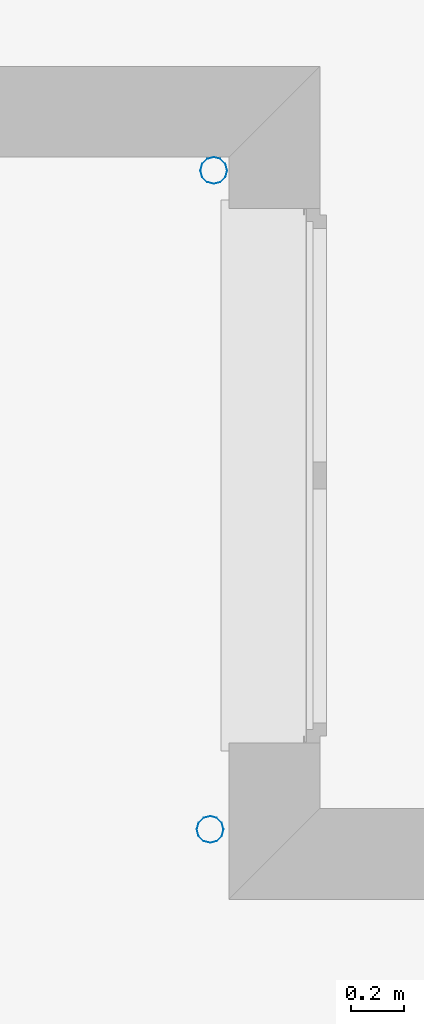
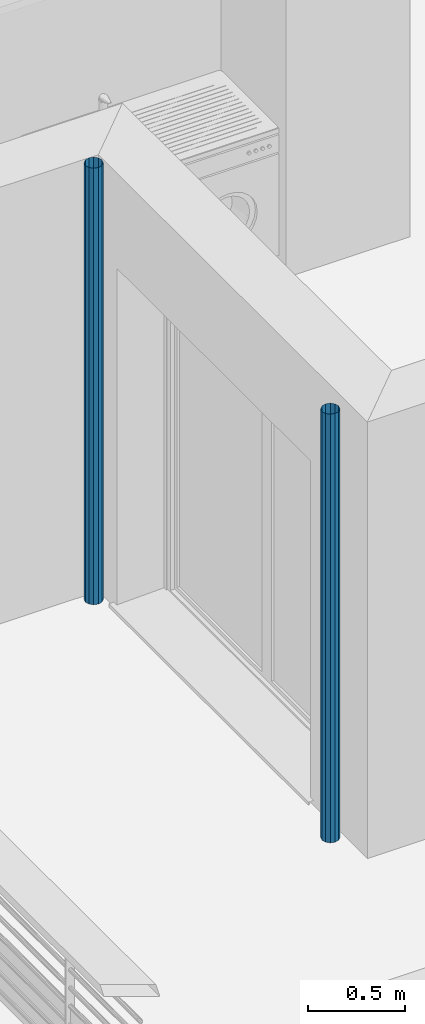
# One storey, part 74 of 164: 2 discrete accessories.
"""IFC2X3 building model written with IfcOpenShell, lengths in millimetres."""

from ifc_helpers import new_model, entity, si_unit, converted_unit, derived_unit, money_unit, direction, frame, origin_with_axes, place, context, subcontext, project, spatial, open_shell, surface_model, source, transform, mapped, type_object, element, save


model = new_model("IFC2X3")

# Units and contexts
model_context = context("Model", 3, precision=0.01, world=origin_with_axes(), true_north=direction((0.0, 1.0)))
body_context = subcontext(model_context, "Body", "Model", "MODEL_VIEW")
ifc_project = project(units=[si_unit("LENGTHUNIT", "METRE", prefix="MILLI"), si_unit("AREAUNIT", "SQUARE_METRE"), si_unit("VOLUMEUNIT", "CUBIC_METRE"), converted_unit("PLANEANGLEUNIT", "DEGREE", entity("IfcPlaneAngleMeasure", 0.0174532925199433), si_unit("PLANEANGLEUNIT", "RADIAN"), dimensions=[0, 0, 0, 0, 0, 0, 0]), money_unit("USD"), converted_unit("TIMEUNIT", "Year", entity("IfcTimeMeasure", 31557600.0), si_unit("TIMEUNIT", "SECOND"), dimensions=[0, 0, 1, 0, 0, 0, 0]), si_unit("MASSUNIT", "GRAM", prefix="KILO"), si_unit("THERMODYNAMICTEMPERATUREUNIT", "DEGREE_CELSIUS"), si_unit("LUMINOUSINTENSITYUNIT", "LUMEN"), si_unit("ENERGYUNIT", "JOULE", prefix="MEGA"), derived_unit("THERMALCONDUCTANCEUNIT", [(si_unit("POWERUNIT", "WATT"), 1), (si_unit("LENGTHUNIT", "METRE"), -1), (si_unit("THERMODYNAMICTEMPERATUREUNIT", "KELVIN"), -1)]), derived_unit("SPECIFICHEATCAPACITYUNIT", [(si_unit("ENERGYUNIT", "JOULE"), 1), (si_unit("MASSUNIT", "GRAM", prefix="KILO"), -1), (si_unit("THERMODYNAMICTEMPERATUREUNIT", "KELVIN"), -1)]), derived_unit("MASSDENSITYUNIT", [(si_unit("MASSUNIT", "GRAM", prefix="KILO"), 1), (si_unit("VOLUMEUNIT", "CUBIC_METRE"), -1)])], contexts=[model_context])

# Site, building, storey
site_placement = place(None, origin_with_axes())
site = spatial("IfcSite", under=ifc_project, at=site_placement, Name="Site", CompositionType="ELEMENT")
building_placement = place(site_placement, origin_with_axes())
building = spatial("IfcBuilding", under=site, at=building_placement, Name="Bâtiment", CompositionType="ELEMENT")
storey_placement = place(building_placement, frame((0.0, 0.0, 5750.0), z_axis=(0.0, 0.0, 1.0), x_axis=(1.0, 0.0, 0.0)))
storey = spatial("IfcBuildingStorey", under=building, at=storey_placement, Name="Etage1", CompositionType="ELEMENT", Elevation=5750.0)

# Discrete accessories
discrete_accessory_type = type_object("IfcDiscreteAccessoryType", Name="Tuyau descente 27")
shared_shape_1 = source(origin_with_axes(), body_context, "Body", "SurfaceModel", [
    surface_model("IfcShellBasedSurfaceModel", [(50.0, 0.0, 2700.0), (43.30127018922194, -25.0, 2700.0), (43.30127018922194, -25.0, 0.0), (50.0, 0.0, 0.0), (25.00000000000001, -43.30127018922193, 2700.0), (25.00000000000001, -43.30127018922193, 0.0), (43.30127018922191, 25.00000000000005, 2700.0), (43.30127018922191, 25.00000000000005, 0.0), (0.0, -50.0, 2700.0), (0.0, -50.0, 0.0), (24.99999999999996, 43.30127018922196, 2700.0), (24.99999999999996, 43.30127018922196, 0.0), (-24.99999999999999, -43.30127018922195, 2700.0), (-24.99999999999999, -43.30127018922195, 0.0), (0.0, 50.0, 2700.0), (0.0, 50.0, 0.0), (-43.30127018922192, -25.00000000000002, 2700.0), (-43.30127018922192, -25.00000000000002, 0.0), (-25.00000000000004, 43.30127018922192, 2700.0), (-25.00000000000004, 43.30127018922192, 0.0), (-50.0, 0.0, 2700.0), (-50.0, 0.0, 0.0), (-43.30127018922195, 24.99999999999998, 2700.0), (-43.30127018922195, 24.99999999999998, 0.0)], [open_shell([[[0, 1, 2, 3]], [[1, 4, 5, 2]], [[6, 0, 3, 7]], [[4, 8, 9, 5]], [[10, 6, 7, 11]], [[8, 12, 13, 9]], [[14, 10, 11, 15]], [[12, 16, 17, 13]], [[18, 14, 15, 19]], [[16, 20, 21, 17]], [[22, 18, 19, 23]], [[20, 22, 23, 21]]])]),
])
discrete_accessory_1_placement = place(storey_placement, frame((2218164.233338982, -657556.9887538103, 0.0), z_axis=(0.0, 0.0, 1.0), x_axis=(1.0, 0.0, 0.0)))
element("IfcDiscreteAccessory", 1, at=discrete_accessory_1_placement, inside=storey, type_object=discrete_accessory_type, Name="Obj.-318", context=body_context, shape_type="MappedRepresentation", body=[
    mapped(shared_shape_1, transform((0.0, 0.0, 0.0))),
])
shared_shape_2 = source(origin_with_axes(), body_context, "Body", "SurfaceModel", [
    surface_model("IfcShellBasedSurfaceModel", [(50.0, 0.0, 2750.0), (43.30127018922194, -25.0, 2750.0), (43.30127018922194, -25.0, 0.0), (50.0, 0.0, 0.0), (25.00000000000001, -43.30127018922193, 2750.0), (25.00000000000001, -43.30127018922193, 0.0), (43.30127018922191, 25.00000000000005, 2750.0), (43.30127018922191, 25.00000000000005, 0.0), (0.0, -50.0, 2750.0), (0.0, -50.0, 0.0), (24.99999999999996, 43.30127018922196, 2750.0), (24.99999999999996, 43.30127018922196, 0.0), (-24.99999999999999, -43.30127018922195, 2750.0), (-24.99999999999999, -43.30127018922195, 0.0), (0.0, 50.0, 2750.0), (0.0, 50.0, 0.0), (-43.30127018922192, -25.00000000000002, 2750.0), (-43.30127018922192, -25.00000000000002, 0.0), (-25.00000000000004, 43.30127018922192, 2750.0), (-25.00000000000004, 43.30127018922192, 0.0), (-50.0, 0.0, 2750.0), (-50.0, 0.0, 0.0), (-43.30127018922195, 24.99999999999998, 2750.0), (-43.30127018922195, 24.99999999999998, 0.0)], [open_shell([[[0, 1, 2, 3]], [[1, 4, 5, 2]], [[6, 0, 3, 7]], [[4, 8, 9, 5]], [[10, 6, 7, 11]], [[8, 12, 13, 9]], [[14, 10, 11, 15]], [[12, 16, 17, 13]], [[18, 14, 15, 19]], [[16, 20, 21, 17]], [[22, 18, 19, 23]], [[20, 22, 23, 21]]])]),
])
discrete_accessory_2_placement = place(storey_placement, frame((2218177.823438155, -655091.4677782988, 0.0), z_axis=(0.0, 0.0, 1.0), x_axis=(1.0, 0.0, 0.0)))
element("IfcDiscreteAccessory", 2, at=discrete_accessory_2_placement, inside=storey, type_object=discrete_accessory_type, Name="Obj.-318", context=body_context, shape_type="MappedRepresentation", body=[
    mapped(shared_shape_2, transform((0.0, 0.0, 0.0))),
])

save(model, "model.ifc")
